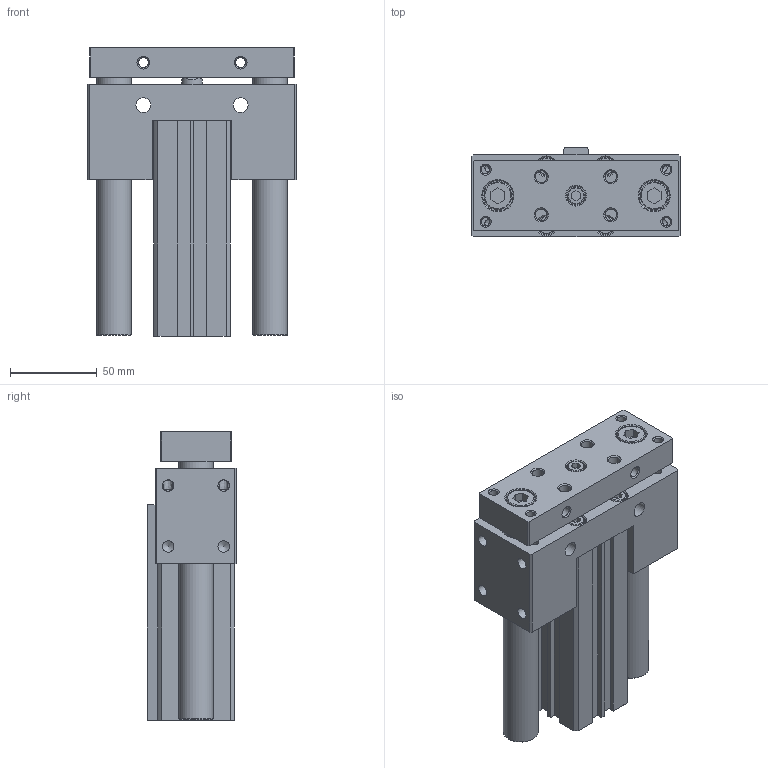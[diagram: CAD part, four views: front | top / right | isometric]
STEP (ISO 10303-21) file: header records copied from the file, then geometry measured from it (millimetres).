
FILE_DESCRIPTION((''),'2;1');
FILE_NAME('I:\3D電子目錄\氣缸\JCB\JCB\JCB32-S\JCB32x90-S.stp','2007-08-21T20:20:49',('Administrator'),(''),'Autodesk Inventor 11','Autodesk Inventor 11','');
FILE_SCHEMA(('AUTOMOTIVE_DESIGN { 1 0 10303 214 1 1 1 1 }'));
Length unit declared in the file: millimetre
Products named in the file (1): JCB32
Bounding box: 120 x 51.5 x 166 mm (x, y, z)
Volume: 557553.7 mm3; surface area: 127529.2 mm2
Topology: 3 solids, 3 shells, 320 faces, 754 edges, 489 vertices
Faces by surface type: plane 173, cylinder 53, bspline 45, cone 41, torus 8
Full cylindrical faces by diameter (mm): 2.2 x1, 5.1 x4, 6 x2, 6.647 x4, 8 x8, 10 x5, 11 x5, 12 x1, 13 x1, 16 x2, 17.5 x2, 20 x2, 22 x1, 23 x3, 34 x4, 36 x2
Entity records: 9272 total; most frequent: CARTESIAN_POINT 2540, DIRECTION 1340, ORIENTED_EDGE 1192, EDGE_CURVE 596, EDGE_LOOP 534, AXIS2_PLACEMENT_3D 492, VERTEX_POINT 458, VECTOR 356
